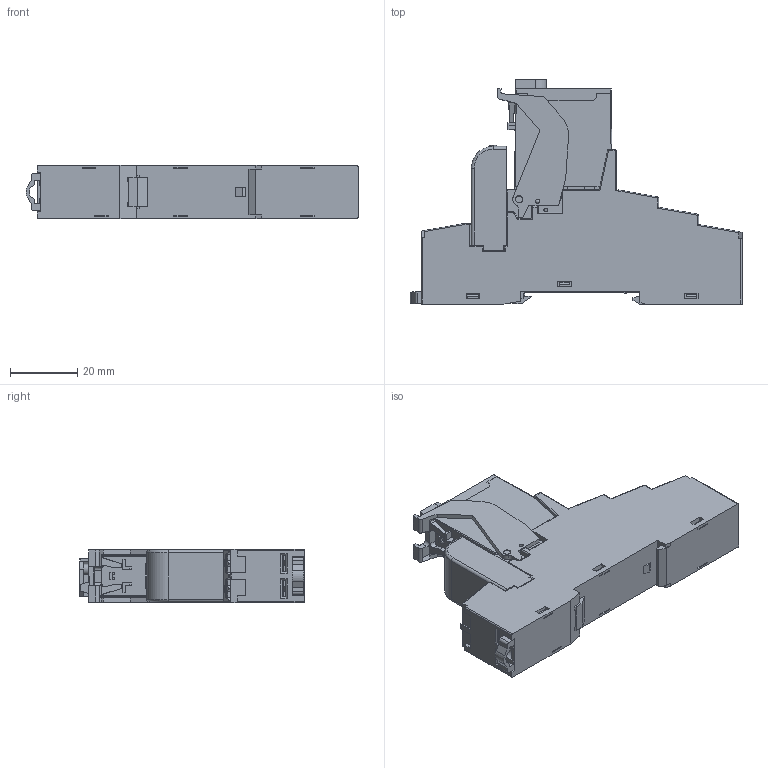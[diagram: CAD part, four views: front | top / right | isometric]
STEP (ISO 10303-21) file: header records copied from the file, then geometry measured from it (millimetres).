
FILE_DESCRIPTION(/* description */ ('Unknown'),/* implementation_level */ '2;1');
FILE_NAME(/* name */ '4CP2',/* time_stamp */ '2016-02-03T15:33:42+01:00',/* author */ ('Unknown'),/* organization */ ('Unknown'),/* preprocessor_version */ 'ST-DEVELOPER v16',/* originating_system */ 'DEX',/* authorisation */ $);
FILE_SCHEMA (('AUTOMOTIVE_DESIGN {1 0 10303 214 3 1 1}'));
Products named in the file (1): 4CP2
Bounding box: 98.9 x 66.79 x 15.8 mm (x, y, z)
Surface area: 27481.3 mm2 (no closed solid volume)
Topology: 0 solids, 27 shells, 2892 faces, 8045 edges, 5180 vertices
Faces by surface type: plane 2172, cylinder 530, torus 103, cone 69, sphere 14, bspline 4
Full cylindrical faces by diameter (mm): 1.2 x6, 1.3 x8, 2 x2, 2.1 x8, 2.2 x2, 3 x3
Entity records: 111404 total; most frequent: CARTESIAN_POINT 17763, ORIENTED_EDGE 15372, DIRECTION 14370, EDGE_CURVE 7980, LINE 6624, VECTOR 6624, VERTEX_POINT 5162, AXIS2_PLACEMENT_3D 3873
